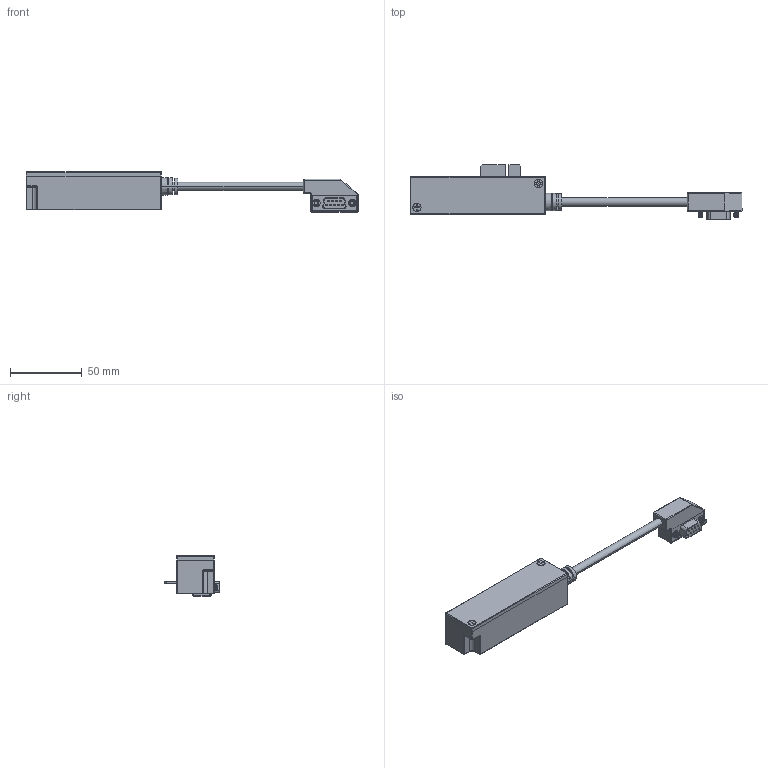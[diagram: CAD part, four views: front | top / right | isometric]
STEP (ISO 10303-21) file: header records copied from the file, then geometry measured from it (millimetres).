
FILE_DESCRIPTION (( 'STEP AP203' ), '1' );
FILE_NAME ('EX-To-GX_CABLE.STEP', '2023-11-13T16:02:19', ( '' ), ( '' ), 'SwSTEP 2.0', 'SolidWorks 2020', '' );
FILE_SCHEMA (( 'CONFIG_CONTROL_DESIGN' ));
Length unit declared in the file: inch
Products named in the file (1): EX-To-GX_CABLE
Bounding box: 231.28 x 38.21 x 28.02 mm (x, y, z)
Volume: 43621.3 mm3; surface area: 37404.9 mm2
Topology: 19 solids, 19 shells, 922 faces, 2264 edges, 1430 vertices
Faces by surface type: plane 532, cylinder 220, cone 118, sphere 30, torus 22
Entity records: 27153 total; most frequent: CARTESIAN_POINT 4953, DIRECTION 4646, ORIENTED_EDGE 4484, EDGE_CURVE 2242, AXIS2_PLACEMENT_3D 1571, VECTOR 1504, LINE 1504, VERTEX_POINT 1430
